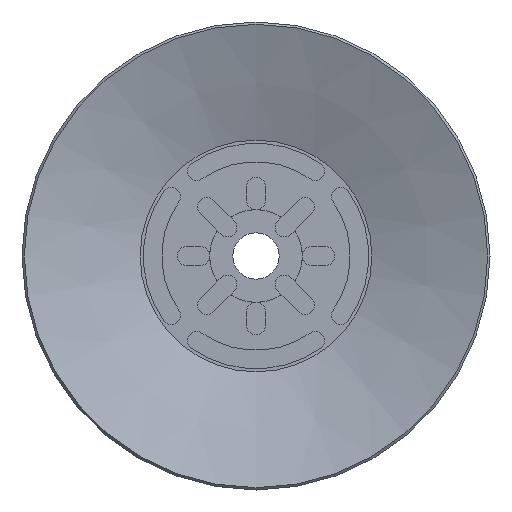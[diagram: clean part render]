
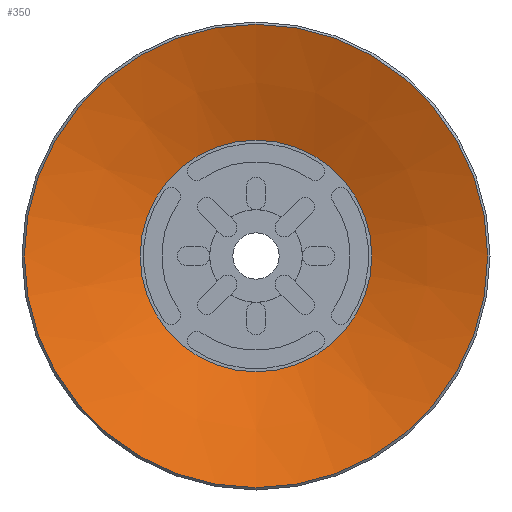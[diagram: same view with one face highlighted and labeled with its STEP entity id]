
A CAD part, front view. The second image highlights one B-rep face of the part: STEP entity #350.
In plain terms, the highlighted conical face has half-angle 70.201 degrees and reference radius 7.5 mm.
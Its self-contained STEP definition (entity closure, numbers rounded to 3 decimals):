
#350=ADVANCED_FACE('',(#599,#600),#601,.F.);
#599=FACE_BOUND('',#947,.T.);
#600=FACE_OUTER_BOUND('',#948,.T.);
#601=CONICAL_SURFACE('',#949,7.5,1.225);
#947=EDGE_LOOP('',(#1592));
#948=EDGE_LOOP('',(#1593));
#949=AXIS2_PLACEMENT_3D('',#1594,#1595,#1596);
#1592=ORIENTED_EDGE('',*,*,#2358,.F.);
#1593=ORIENTED_EDGE('',*,*,#2359,.T.);
#1594=CARTESIAN_POINT('',(0.0,0.0,2.7));
#1595=DIRECTION('',(0.0,0.,-1.0));
#1596=DIRECTION('',(0.0,1.0,0.));
#2358=EDGE_CURVE('',#2781,#2781,#2782,.T.);
#2359=EDGE_CURVE('',#2783,#2783,#2784,.T.);
#2781=VERTEX_POINT('',#3742);
#2782=CIRCLE('',#3743,7.5);
#2783=VERTEX_POINT('',#3744);
#2784=CIRCLE('',#3745,15.0);
#3742=CARTESIAN_POINT('',(0.0,7.5,2.7));
#3743=AXIS2_PLACEMENT_3D('',#4342,#4343,#4344);
#3744=CARTESIAN_POINT('',(0.0,15.0,0.));
#3745=AXIS2_PLACEMENT_3D('',#4345,#4346,#4347);
#4342=CARTESIAN_POINT('',(0.0,0.0,2.7));
#4343=DIRECTION('',(0.0,0.,-1.0));
#4344=DIRECTION('',(0.0,1.0,0.));
#4345=CARTESIAN_POINT('',(0.0,0.0,0.0));
#4346=DIRECTION('',(0.0,0.,-1.0));
#4347=DIRECTION('',(0.0,1.0,0.));
